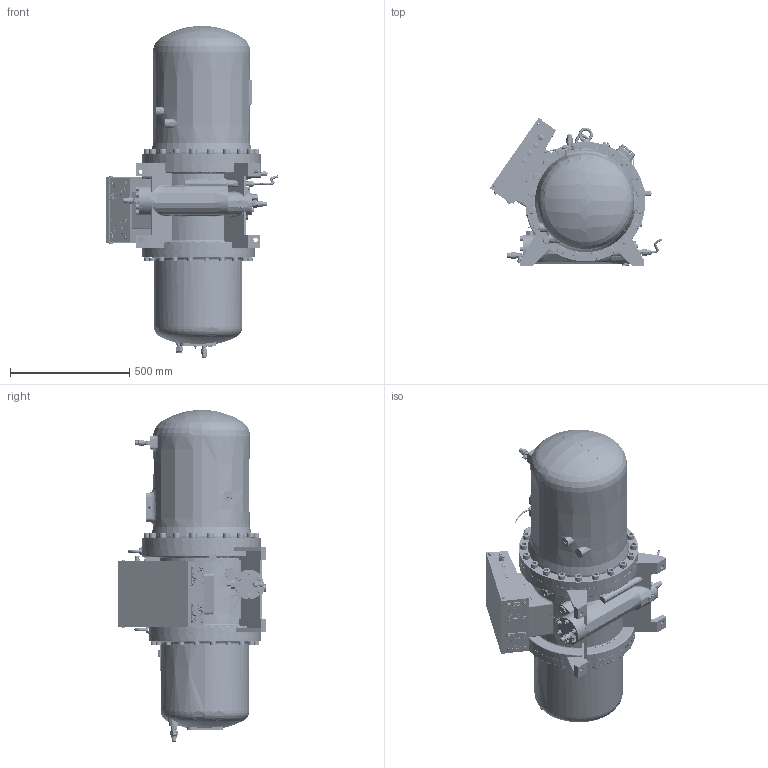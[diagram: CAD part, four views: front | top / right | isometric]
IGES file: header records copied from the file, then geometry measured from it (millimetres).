
Global section: file name: RC2-300B outline; native system: Autodesk Inventor 2017; preprocessor: unknown; author: hedylu; date: 20170626.143209; units: centimetre
Bounding box: 721.48 x 622.75 x 1390.62 mm (x, y, z)
Surface area: 4136654.7 mm2 (no closed solid volume)
Topology: 0 solids, 0 shells, 2831 faces, 46963 edges, 46931 vertices
Faces by surface type: bspline 1473, revolution 1358
